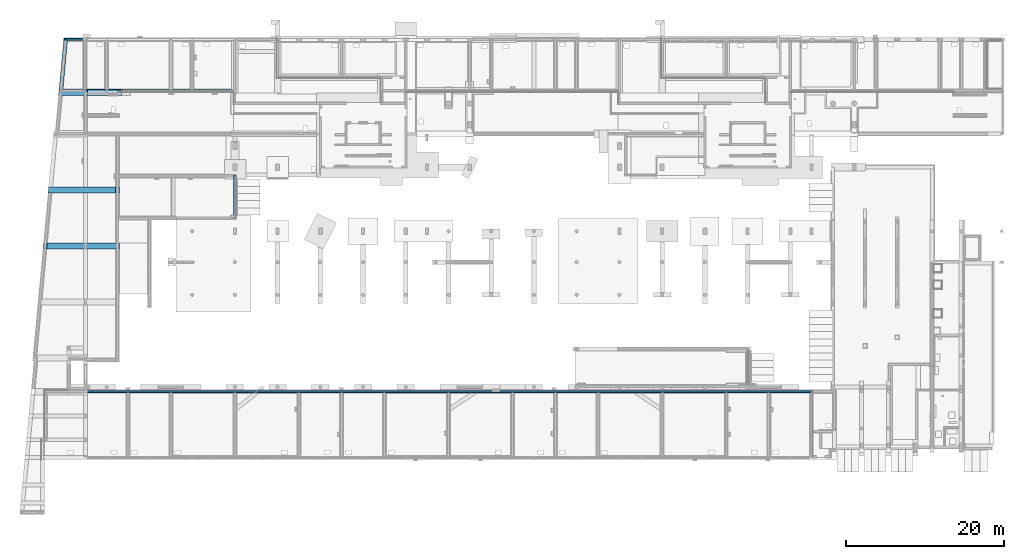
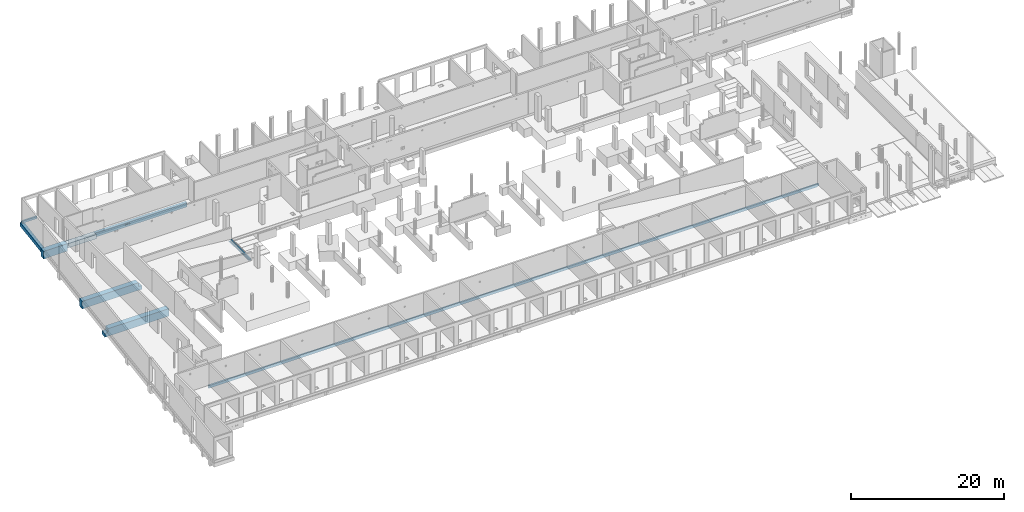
# One storey, part 56 of 60: 9 footings.
"""IFC2X3 building model written with IfcOpenShell, lengths in millimetres."""

from ifc_helpers import new_model, entity, si_unit, converted_unit, derived_unit, direction, frame, origin, place, context, subcontext, project, spatial, faceted_brep, material, element, save


model = new_model("IFC2X3")

# Units and contexts
model_context = context("Model", 3, precision=0.01, world=origin(), true_north=direction((6.12303176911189e-17, 1.0)))
body_context = subcontext(model_context, "Body", "Model", "MODEL_VIEW")
ifc_project = project(units=[si_unit("LENGTHUNIT", "METRE", prefix="MILLI"), si_unit("AREAUNIT", "SQUARE_METRE"), si_unit("VOLUMEUNIT", "CUBIC_METRE"), converted_unit("PLANEANGLEUNIT", "DEGREE", entity("IfcRatioMeasure", 0.0174532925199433), si_unit("PLANEANGLEUNIT", "RADIAN"), dimensions=[0, 0, 0, 0, 0, 0, 0]), si_unit("MASSUNIT", "GRAM", prefix="KILO"), derived_unit("MASSDENSITYUNIT", [(si_unit("MASSUNIT", "GRAM", prefix="KILO"), 1), (si_unit("LENGTHUNIT", "METRE"), -3)]), si_unit("TIMEUNIT", "SECOND"), si_unit("FREQUENCYUNIT", "HERTZ"), si_unit("THERMODYNAMICTEMPERATUREUNIT", "DEGREE_CELSIUS"), derived_unit("THERMALTRANSMITTANCEUNIT", [(si_unit("MASSUNIT", "GRAM", prefix="KILO"), 1), (si_unit("THERMODYNAMICTEMPERATUREUNIT", "KELVIN"), -1), (si_unit("TIMEUNIT", "SECOND"), -3)]), derived_unit("VOLUMETRICFLOWRATEUNIT", [(si_unit("LENGTHUNIT", "METRE"), 3), (si_unit("TIMEUNIT", "SECOND"), -1)]), si_unit("ELECTRICCURRENTUNIT", "AMPERE"), si_unit("ELECTRICVOLTAGEUNIT", "VOLT"), si_unit("POWERUNIT", "WATT"), si_unit("FORCEUNIT", "NEWTON", prefix="KILO"), si_unit("ILLUMINANCEUNIT", "LUX"), si_unit("LUMINOUSFLUXUNIT", "LUMEN"), si_unit("LUMINOUSINTENSITYUNIT", "CANDELA"), derived_unit("USERDEFINED", [(si_unit("MASSUNIT", "GRAM", prefix="KILO"), -1), (si_unit("LENGTHUNIT", "METRE"), -2), (si_unit("TIMEUNIT", "SECOND"), 3), (si_unit("LUMINOUSFLUXUNIT", "LUMEN"), 1)]), derived_unit("LINEARVELOCITYUNIT", [(si_unit("LENGTHUNIT", "METRE"), 1), (si_unit("TIMEUNIT", "SECOND"), -1)]), si_unit("PRESSUREUNIT", "PASCAL"), derived_unit("USERDEFINED", [(si_unit("LENGTHUNIT", "METRE"), -2), (si_unit("MASSUNIT", "GRAM", prefix="KILO"), 1), (si_unit("TIMEUNIT", "SECOND"), -2)])], contexts=[model_context])

# Site, building, storey
site_placement = place(None, origin())
site = spatial("IfcSite", under=ifc_project, at=site_placement, Name="Default", CompositionType="ELEMENT")
building_placement = place(site_placement, origin())
building = spatial("IfcBuilding", under=site, at=building_placement, Name="niet gebruiken", CompositionType="ELEMENT")
storey_placement = place(building_placement, origin())
storey = spatial("IfcBuildingStorey", under=building, at=storey_placement, Name="00 begane grond", CompositionType="ELEMENT", Elevation=0.0)

# Footings
ifc_material = material(Name="NLRS_f2_beton ihwg")
footing_1_placement = place(storey_placement, frame((4709.2590380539, 46071.0, -1602.0)))
element("IfcFooting", 1, at=footing_1_placement, inside=storey, material=ifc_material, Name="NLRS_16.12_SF_WPB_funderingsbalk ihwg recht_gen:800x1200", ObjectType="NLRS_16.12_SF_WPB_funderingsbalk ihwg recht_gen:800x1200", PredefinedType="FOOTING_BEAM", context=body_context, shape_type="Brep", body=[
    faceted_brep([(3640.74096194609, 0.0, 1200.0), (3640.74096194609, 0.0, 600.0), (3640.74096194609, 0.0, 0.0), (3640.74096194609, 800.0, 0.0), (3640.74096194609, 800.0, 500.0), (3640.74096194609, 800.0, 1110.0), (3640.74096194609, 695.0, 1110.0), (3640.74096194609, 695.0, 1200.0), (3640.74096194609, 675.0, 1200.0), (74.1560345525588, 800.0, 0.0), (74.1560345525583, 800.0, 600.0), (74.1560345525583, 800.0, 1200.0), (576.29953272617, 800.0, 1200.0), (3095.74096194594, 800.0, 1200.0), (3470.74096194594, 800.0, 1200.0), (3490.7409619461, 800.0, 1200.0), (3490.7409619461, 800.0, 1110.0), (3595.74096194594, 800.0, 1110.0), (0.0, 0.0, 0.0), (3140.7409619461, 0.0, 1200.0), (502.143498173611, 0.0, 1200.0), (0.0, 0.0, 1200.0), (0.0, 0.0, 600.0), (3490.7409619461, 695.0, 1200.0), (3490.7409619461, 695.0, 1110.0)], [[[0, 1, 2, 3, 4, 5, 6, 7, 8]], [[3, 9, 10, 11, 12, 13, 14, 15, 16, 17, 5, 4]], [[3, 2, 18, 9]], [[2, 1, 0, 19, 20, 21, 22, 18]], [[21, 20, 19, 0, 8, 7, 23, 15, 14, 13, 12, 11]], [[16, 24, 6, 5, 17]], [[6, 24, 23, 7]], [[24, 16, 15, 23]], [[11, 10, 9, 18, 22, 21]]]),
])
footing_2_placement = place(storey_placement, frame((2730.42402888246, 26623.5, -1602.0)))
element("IfcFooting", 2, at=footing_2_placement, inside=storey, material=ifc_material, Name="NLRS_16.12_SF_WPB_funderingsbalk ihwg recht_gen:800x1200", ObjectType="NLRS_16.12_SF_WPB_funderingsbalk ihwg recht_gen:800x1200", PredefinedType="FOOTING_BEAM", context=body_context, shape_type="Brep", body=[
    faceted_brep([(9669.57597111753, 800.0, 1200.0), (9669.57597111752, 0.0, 1200.0), (9669.57597111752, 0.0, 600.0), (9669.57597111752, 0.0, 0.0), (9669.57597111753, 800.0, 0.0), (9669.57597111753, 800.0, 600.0), (74.4283302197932, 800.0, 0.0), (74.4283302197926, 800.0, 600.0), (576.587564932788, 800.0, 600.0), (576.587564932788, 800.0, 1200.0), (5119.57597111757, 800.0, 1200.0), (5619.57597111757, 800.0, 1200.0), (9169.57597111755, 800.0, 1200.0), (0.0, 0.0, 0.0), (9169.57597111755, 0.0, 1200.0), (5619.57597111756, 0.0, 1200.0), (5119.57597111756, 0.0, 1200.0), (502.159234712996, 0.0, 1200.0), (502.159234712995, 0.0, 600.0), (0.0, 0.0, 600.0)], [[[0, 1, 2, 3, 4, 5]], [[0, 5, 4, 6, 7, 8, 9, 10, 11, 12]], [[4, 3, 13, 6]], [[3, 2, 1, 14, 15, 16, 17, 18, 19, 13]], [[1, 0, 12, 11, 10, 9, 17, 16, 15, 14]], [[8, 18, 17, 9]], [[18, 8, 7, 19]], [[6, 13, 19, 7]]]),
])
footing_3_placement = place(storey_placement, frame((5489.22191752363, 53006.0, -492.0)))
element("IfcFooting", 3, at=footing_3_placement, inside=storey, material=ifc_material, Name="NLRS_16.12_SF_WPB_opstort ihwg recht_gen:250x422", ObjectType="NLRS_16.12_SF_WPB_opstort ihwg recht_gen:250x422", PredefinedType="FOOTING_BEAM", context=body_context, shape_type="Brep", body=[
    faceted_brep([(0.0, 250.0, 0.0), (0.0, 0.0, 0.0), (0.0, 0.0, 90.0), (0.0, 0.0, 362.0), (0.0, 250.0, 362.0), (0.0, 250.0, 90.0), (220.778082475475, 250.0, 362.0), (220.778082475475, 250.0, 422.0), (2280.77808247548, 250.0, 422.0), (2280.77808247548, 250.0, 90.0), (11.5868803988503, 250.0, 90.0), (11.5868803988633, 250.0, 0.0), (239.48486868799, 0.0, 0.0), (220.778082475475, 0.0, 362.0), (239.484868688, 0.0, 90.0), (2280.77808247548, 0.0, 90.0), (2280.77808247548, 0.0, 422.0), (239.484868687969, 0.0, 422.0), (220.778082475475, 0.0, 422.0)], [[[0, 1, 2, 3, 4, 5]], [[4, 6, 7, 8, 9, 10, 11, 0, 5]], [[1, 0, 11, 12]], [[13, 3, 2, 1, 12, 14, 15, 16, 17, 18]], [[7, 18, 17, 16, 8]], [[6, 4, 3, 13]], [[7, 6, 13, 18]], [[14, 10, 9, 15]], [[10, 14, 12, 11]], [[9, 8, 16, 15]]]),
])
footing_4_placement = place(storey_placement, frame((4783.41507260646, 46871.0, -1002.0)))
element("IfcFooting", 4, at=footing_4_placement, inside=storey, material=ifc_material, Name="NLRS_16.12_SF_WPB_funderingsbalk ihwg recht_gen:500x600", ObjectType="NLRS_16.12_SF_WPB_funderingsbalk ihwg recht_gen:500x600", PredefinedType="FOOTING_BEAM", context=body_context, shape_type="Brep", body=[
    faceted_brep([(1059.24070774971, 6010.0, 600.0), (502.143498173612, 0.0, 600.0), (502.143498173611, 0.0, 0.0), (1059.24070774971, 6010.0, 0.0), (0.0, 0.0, 0.0), (603.444731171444, 6510.0, 0.0), (0.0, 0.0, 600.0), (603.444731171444, 6510.0, 600.0), (945.291713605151, 6135.0, 600.0), (705.806844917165, 6135.0, 600.0), (705.806844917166, 6260.0, 600.0), (705.806844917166, 6385.0, 600.0), (717.393725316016, 6385.0, 600.0), (717.393725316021, 6385.0, 510.0), (945.291713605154, 6135.0, 510.0), (705.806844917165, 6135.0, 510.0), (705.806844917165, 6385.0, 510.0)], [[[0, 1, 2, 3]], [[3, 2, 4, 5]], [[5, 4, 6, 7]], [[1, 0, 8, 9, 10, 11, 12, 7, 6]], [[2, 1, 6, 4]], [[0, 3, 5, 7, 12, 13, 14, 8]], [[15, 16, 11, 10, 9]], [[11, 16, 13, 12]], [[16, 15, 14, 13]], [[15, 9, 8, 14]]]),
])
footing_5_placement = place(storey_placement, frame((26850.0, 30551.0, -492.0)))
element("IfcFooting", 5, at=footing_5_placement, inside=storey, material=ifc_material, Name="NLRS_16.12_SF_WPB_opstort ihwg recht_gen:300x550", ObjectType="NLRS_16.12_SF_WPB_opstort ihwg recht_gen:300x550", PredefinedType="FOOTING_BEAM", context=body_context, shape_type="Brep", body=[
    faceted_brep([(0.0, 0.0, 322.0), (0.0, 125.0, 322.0), (0.0, 125.0, 292.0), (0.0, 0.0, 292.0), (0.0, 4950.0, 0.0), (300.0, 4950.0, 0.0), (300.0, 4949.0, 0.0), (0.0, 4949.0, 0.0), (300.0, 125.0, 492.0), (300.0, 125.0, 322.0), (300.0, 0.0, 322.0), (300.0, 0.0, 292.0), (300.0, 330.0, 292.0), (300.0, 330.0, 90.0), (300.0, 4949.0, 90.0), (300.0, 4950.0, 90.0), (300.0, 5305.0, 90.0), (300.0, 5455.0, 90.0), (300.0, 5455.0, 120.0), (300.0, 5305.0, 120.0), (300.0, 5205.0, 120.0), (300.0, 5205.0, 492.0), (150.0, 5205.0, 492.0), (150.0, 125.0, 492.0), (150.0, 330.0, 240.78363277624), (150.0, 5205.0, 240.783632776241), (30.0, 5205.0, 252.635484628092), (0.0, 5205.0, 255.598447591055), (0.0, 330.0, 255.598447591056), (30.0, 330.0, 252.635484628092), (150.0, 330.0, 292.0), (150.0, 125.0, 292.0), (150.0, 125.0, 322.0), (0.0, 4949.0, 90.0), (0.0, 330.0, 90.0), (0.0, 5455.0, 120.0), (0.0, 5455.0, 90.0), (0.0, 5205.0, 120.0), (0.0, 4950.0, 90.0)], [[[0, 1, 2, 3]], [[4, 5, 6, 7]], [[8, 9, 10, 11, 12, 13, 14, 6, 5, 15, 16, 17, 18, 19, 20, 21]], [[8, 21, 22, 23]], [[24, 25, 26, 27, 28, 29]], [[25, 24, 30, 31, 32, 23, 22]], [[14, 33, 7, 6]], [[33, 14, 13, 34]], [[9, 8, 23, 32]], [[10, 0, 3, 11]], [[12, 11, 3, 2, 31, 30]], [[24, 29, 28, 34, 13, 12, 30]], [[35, 18, 17, 36]], [[21, 20, 37, 27, 26, 25, 22]], [[36, 17, 16, 15, 38]], [[15, 5, 4, 38]], [[37, 20, 19, 18, 35]], [[1, 0, 10, 9, 32]], [[28, 27, 37, 35, 36, 38, 4, 7, 33, 34]], [[2, 1, 32, 31]]]),
])
footing_6_placement = place(storey_placement, frame((3389.23104559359, 33704.75, -1602.0)))
element("IfcFooting", 6, at=footing_6_placement, inside=storey, material=ifc_material, Name="NLRS_16.12_SF_WPB_funderingsbalk ihwg recht_gen:800x1200", ObjectType="NLRS_16.12_SF_WPB_funderingsbalk ihwg recht_gen:800x1200", PredefinedType="FOOTING_BEAM", context=body_context, shape_type="Brep", body=[
    faceted_brep([(9010.7689544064, 0.0, 0.0), (9010.7689544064, 800.0, 0.0), (9010.7689544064, 800.0, 600.0), (9010.7689544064, 0.0, 600.0), (74.4283302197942, 800.0, 0.0), (74.4283302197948, 800.0, 600.0), (74.4283302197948, 800.0, 1200.0), (576.58756493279, 800.0, 1200.0), (4460.76895440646, 800.0, 1200.0), (4960.76895440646, 800.0, 1200.0), (8510.76895440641, 800.0, 1200.0), (8510.76895440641, 800.0, 600.0), (0.0, 0.0, 0.0), (8510.76895440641, 0.0, 600.0), (8510.76895440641, 0.0, 1200.0), (4960.76895440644, 0.0, 1200.0), (4460.76895440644, 0.0, 1200.0), (502.159234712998, 0.0, 1200.0), (0.0, 0.0, 1200.0), (0.0, 0.0, 600.0)], [[[0, 1, 2, 3]], [[1, 4, 5, 6, 7, 8, 9, 10, 11, 2]], [[1, 0, 12, 4]], [[12, 0, 3, 13, 14, 15, 16, 17, 18, 19]], [[6, 18, 17, 16, 15, 14, 10, 9, 8, 7]], [[11, 13, 3, 2]], [[13, 11, 10, 14]], [[6, 5, 4, 12, 19, 18]]]),
])
footing_7_placement = place(storey_placement, frame((8350.0, 46021.0, -1102.0)))
element("IfcFooting", 7, at=footing_7_placement, inside=storey, material=ifc_material, Name="NLRS_16.12_SF_WPB_funderingsbalk ihwg enkele sponning_gen:850x700/125x90", ObjectType="NLRS_16.12_SF_WPB_funderingsbalk ihwg enkele sponning_gen:850x700/125x90", PredefinedType="FOOTING_BEAM", context=body_context, shape_type="Brep", body=[
    faceted_brep([(0.0, 0.0, 0.0), (0.0, 0.0, 700.0), (0.0, 50.0, 700.0), (0.0, 725.0, 700.0), (0.0, 725.0, 610.0), (0.0, 745.0, 610.0), (0.0, 850.0, 610.0), (0.0, 850.0, 0.0), (2200.0, 850.0, 610.0), (2305.0, 850.0, 610.0), (2325.0, 850.0, 610.0), (2325.0, 850.0, 552.0), (2575.0, 850.0, 552.0), (2575.0, 850.0, 610.0), (2595.0, 850.0, 610.0), (2700.0, 850.0, 610.0), (4300.0, 850.0, 610.0), (4300.0, 850.0, 0.0), (2325.0, 725.0, 700.0), (2325.0, 725.0, 610.0), (4300.0, 725.0, 700.0), (4300.0, 350.0, 700.0), (4300.0, 0.0, 700.0), (4300.0, 0.0, 0.0), (4300.0, 350.0, 0.0), (4300.0, 745.0, 610.0), (4300.0, 725.0, 610.0), (2575.0, 725.0, 700.0), (2575.0, 600.0, 700.0), (2325.0, 600.0, 700.0), (2325.0, 600.0, 610.0), (2325.0, 600.0, 552.0), (2575.0, 600.0, 552.0), (2575.0, 600.0, 610.0), (2575.0, 725.0, 610.0)], [[[0, 1, 2, 3, 4, 5, 6, 7]], [[7, 6, 8, 9, 10, 11, 12, 13, 14, 15, 16, 17]], [[4, 3, 18, 19]], [[20, 21, 22, 23, 24, 17, 16, 25, 26]], [[3, 2, 1, 22, 21, 20, 27, 28, 29, 18]], [[4, 19, 10, 9, 8, 6, 5]], [[0, 7, 17, 24, 23]], [[1, 0, 23, 22]], [[29, 30, 31, 11, 10, 19, 18]], [[31, 32, 12, 11]], [[12, 32, 33, 28, 27, 34, 13]], [[32, 31, 30, 29, 28, 33]], [[20, 26, 34, 27]], [[34, 26, 25, 16, 15, 14, 13]]]),
])
footing_8_placement = place(storey_placement, frame((12650.0, 46371.0, -1102.0)))
element("IfcFooting", 8, at=footing_8_placement, inside=storey, material=ifc_material, Name="NLRS_16.12_SF_WPB_funderingsbalk ihwg enkele sponning_gen:500x700/125x90", ObjectType="NLRS_16.12_SF_WPB_funderingsbalk ihwg enkele sponning_gen:500x700/125x90", PredefinedType="FOOTING_BEAM", context=body_context, shape_type="Brep", body=[
    faceted_brep([(0.0, 375.0, 610.0), (0.0, 395.0, 610.0), (0.0, 500.0, 610.0), (0.0, 500.0, 0.0), (0.0, 0.0, 0.0), (0.0, 0.0, 700.0), (0.0, 375.0, 700.0), (4600.0, 500.0, 487.0), (6000.0, 500.0, 610.0), (4574.11809548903, 500.0, 483.592582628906), (4900.0, 500.0, 487.0), (4874.11809548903, 500.0, 483.592582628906), (4625.88190450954, 500.0, 483.592582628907), (4550.0, 500.0, 473.602540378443), (4529.28932188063, 500.0, 457.710678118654), (4513.39745962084, 500.0, 437.0), (4503.40741737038, 500.0, 412.881904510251), (4500.0, 500.0, 387.0), (4503.40741737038, 500.0, 361.118095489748), (4513.39745962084, 500.0, 337.0), (4529.28932188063, 500.0, 316.289321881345), (4550.0, 500.0, 300.397459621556), (4574.11809548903, 500.0, 290.407417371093), (4600.0, 500.0, 287.0), (4900.0, 500.0, 287.0), (4874.11809548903, 500.0, 290.407417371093), (4625.88190450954, 500.0, 290.407417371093), (4850.0, 500.0, 300.397459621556), (4650.0, 500.0, 300.397459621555), (4829.28932188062, 500.0, 316.289321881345), (4670.71067811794, 500.0, 316.289321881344), (4813.39745962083, 500.0, 337.0), (4686.60254037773, 500.0, 337.0), (4803.40741737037, 500.0, 361.118095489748), (4696.59258262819, 500.0, 361.118095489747), (4800.0, 500.0, 387.0), (4700.0, 500.0, 387.0), (4803.40741737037, 500.0, 412.881904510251), (4696.59258262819, 500.0, 412.881904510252), (4813.39745962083, 500.0, 437.0), (4686.60254037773, 500.0, 437.0), (4829.28932188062, 500.0, 457.710678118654), (4670.71067811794, 500.0, 457.710678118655), (4850.0, 500.0, 473.602540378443), (4650.0, 500.0, 473.602540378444), (5200.0, 500.0, 287.0), (5174.11809548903, 500.0, 290.407417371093), (4925.88190450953, 500.0, 290.407417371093), (5150.0, 500.0, 300.397459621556), (4950.0, 500.0, 300.397459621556), (5129.28932188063, 500.0, 316.289321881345), (4970.71067811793, 500.0, 316.289321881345), (5113.39745962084, 500.0, 337.0), (4986.60254037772, 500.0, 337.0), (5103.40741737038, 500.0, 361.118095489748), (4996.59258262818, 500.0, 361.118095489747), (5100.0, 500.0, 387.0), (5000.0, 500.0, 387.0), (5103.40741737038, 500.0, 412.881904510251), (4996.59258262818, 500.0, 412.881904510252), (5113.39745962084, 500.0, 437.0), (4986.60254037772, 500.0, 437.0), (5129.28932188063, 500.0, 457.710678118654), (4970.71067811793, 500.0, 457.710678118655), (5150.0, 500.0, 473.602540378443), (4950.0, 500.0, 473.602540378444), (5174.11809548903, 500.0, 483.592582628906), (4925.88190450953, 500.0, 483.592582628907), (5200.0, 500.0, 487.0), (13925.0, 500.0, 0.0), (5225.88190450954, 500.0, 290.407417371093), (8805.0, 500.0, 610.0), (8700.0, 500.0, 610.0), (6500.0, 500.0, 610.0), (5250.0, 500.0, 300.397459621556), (6395.0, 500.0, 610.0), (6105.0, 500.0, 610.0), (5270.71067811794, 500.0, 316.289321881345), (5286.60254037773, 500.0, 337.0), (5296.59258262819, 500.0, 361.118095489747), (5300.0, 500.0, 387.0), (5296.59258262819, 500.0, 412.881904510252), (5286.60254037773, 500.0, 437.0), (5270.71067811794, 500.0, 457.710678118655), (5250.0, 500.0, 473.602540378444), (5225.88190450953, 500.0, 483.592582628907), (9095.0, 500.0, 610.0), (9200.0, 500.0, 610.0), (13925.0, 500.0, 610.0), (6375.0, 375.0, 610.0), (6125.0, 375.0, 610.0), (13925.0, 375.0, 700.0), (13925.0, 375.0, 610.0), (9075.0, 375.0, 610.0), (8825.0, 375.0, 610.0), (13925.0, 395.0, 610.0), (13925.0, 125.0, 700.0), (13925.0, 125.0, 610.0), (13925.0, 10.0, 610.0), (13925.0, 10.0, 0.0), (1180.0, 0.0, 700.0), (6014.46371370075, 0.0, 700.0), (6614.46371370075, 0.0, 700.0), (11506.5492640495, 0.0, 700.0), (12106.5492640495, 0.0, 700.0), (13825.0, 0.0, 700.0), (13825.0, 125.0, 700.0), (13825.0, 125.0, 610.0), (13825.0, 10.0, 610.0), (13825.0, 10.0, 0.0), (13825.0, 0.0, 0.0), (12106.5492640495, 0.0, 0.0), (11506.5492640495, 0.0, 0.0), (6614.46371370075, 0.0, 0.0), (6014.46371370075, 0.0, 0.0), (1180.0, 0.0, 0.0), (4529.28932188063, 0.0, 316.289321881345), (4550.0, 0.0, 300.397459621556), (4513.39745962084, 0.0, 337.0), (4503.40741737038, 0.0, 361.118095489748), (4500.0, 0.0, 387.0), (4503.40741737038, 0.0, 412.881904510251), (4513.39745962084, 0.0, 437.0), (4529.28932188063, 0.0, 457.710678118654), (4550.0, 0.0, 473.602540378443), (4574.11809548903, 0.0, 483.592582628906), (4600.0, 0.0, 487.0), (4900.0, 0.0, 487.0), (4874.11809548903, 0.0, 483.592582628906), (4625.88190450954, 0.0, 483.592582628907), (4850.0, 0.0, 473.602540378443), (4650.0, 0.0, 473.602540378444), (4670.71067811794, 0.0, 457.710678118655), (4829.28932188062, 0.0, 457.710678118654), (4686.60254037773, 0.0, 437.0), (4813.39745962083, 0.0, 437.0), (4696.59258262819, 0.0, 412.881904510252), (4803.40741737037, 0.0, 412.881904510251), (4700.0, 0.0, 387.0), (4800.0, 0.0, 387.0), (4696.59258262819, 0.0, 361.118095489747), (4803.40741737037, 0.0, 361.118095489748), (4686.60254037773, 0.0, 337.0), (4813.39745962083, 0.0, 337.0), (4670.71067811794, 0.0, 316.289321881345), (4829.28932188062, 0.0, 316.289321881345), (4650.0, 0.0, 300.397459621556), (4850.0, 0.0, 300.397459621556), (4625.88190450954, 0.0, 290.407417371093), (4874.11809548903, 0.0, 290.407417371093), (4600.0, 0.0, 287.0), (4574.11809548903, 0.0, 290.407417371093), (4900.0, 0.0, 287.0), (5200.0, 0.0, 287.0), (5225.88190450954, 0.0, 290.407417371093), (5250.0, 0.0, 300.397459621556), (5270.71067811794, 0.0, 316.289321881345), (5286.60254037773, 0.0, 337.0), (5296.59258262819, 0.0, 361.118095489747), (5300.0, 0.0, 387.0), (5200.0, 0.0, 487.0), (5225.88190450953, 0.0, 483.592582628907), (5250.0, 0.0, 473.602540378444), (5270.71067811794, 0.0, 457.710678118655), (5286.60254037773, 0.0, 437.0), (5296.59258262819, 0.0, 412.881904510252), (5174.11809548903, 0.0, 290.407417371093), (4925.88190450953, 0.0, 290.407417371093), (5150.0, 0.0, 300.397459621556), (4950.0, 0.0, 300.397459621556), (5129.28932188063, 0.0, 316.289321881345), (4970.71067811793, 0.0, 316.289321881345), (5113.39745962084, 0.0, 337.0), (4986.60254037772, 0.0, 337.0), (5103.40741737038, 0.0, 361.118095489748), (4996.59258262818, 0.0, 361.118095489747), (5100.0, 0.0, 387.0), (5000.0, 0.0, 387.0), (5103.40741737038, 0.0, 412.881904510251), (4996.59258262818, 0.0, 412.881904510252), (5113.39745962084, 0.0, 437.0), (4986.60254037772, 0.0, 437.0), (5129.28932188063, 0.0, 457.710678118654), (4970.71067811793, 0.0, 457.710678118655), (5150.0, 0.0, 473.602540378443), (4950.0, 0.0, 473.602540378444), (4925.88190450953, 0.0, 483.592582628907), (5174.11809548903, 0.0, 483.592582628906)], [[[0, 1, 2, 3, 4, 5, 6]], [[7, 2, 8]], [[9, 2, 7]], [[10, 7, 8]], [[11, 7, 10]], [[11, 12, 7]], [[2, 9, 13]], [[13, 14, 2]], [[15, 2, 14]], [[2, 15, 16]], [[16, 17, 2]], [[3, 2, 17]], [[3, 17, 18]], [[19, 3, 18]], [[3, 19, 20]], [[3, 20, 21]], [[21, 22, 3]], [[23, 3, 22]], [[24, 3, 23]], [[24, 23, 25]], [[25, 23, 26]], [[26, 27, 25]], [[28, 27, 26]], [[27, 28, 29]], [[30, 29, 28]], [[31, 29, 30]], [[30, 32, 31]], [[31, 32, 33]], [[34, 33, 32]], [[35, 33, 34]], [[34, 36, 35]], [[36, 37, 35]], [[38, 37, 36]], [[37, 38, 39]], [[39, 38, 40]], [[40, 41, 39]], [[41, 40, 42]], [[42, 43, 41]], [[44, 43, 42]], [[44, 11, 43]], [[11, 44, 12]], [[24, 45, 3]], [[45, 24, 46]], [[24, 47, 46]], [[46, 47, 48]], [[47, 49, 48]], [[50, 48, 49]], [[49, 51, 50]], [[52, 50, 51]], [[51, 53, 52]], [[52, 53, 54]], [[54, 53, 55]], [[56, 54, 55]], [[55, 57, 56]], [[56, 57, 58]], [[59, 58, 57]], [[58, 59, 60]], [[61, 60, 59]], [[60, 61, 62]], [[62, 61, 63]], [[63, 64, 62]], [[64, 63, 65]], [[64, 65, 66]], [[66, 65, 67]], [[66, 67, 10]], [[8, 68, 10]], [[68, 66, 10]], [[45, 69, 3]], [[70, 69, 45]], [[71, 69, 70]], [[71, 70, 72]], [[73, 72, 70]], [[74, 73, 70]], [[75, 73, 74]], [[74, 76, 75]], [[74, 77, 76]], [[76, 77, 8]], [[78, 8, 77]], [[79, 8, 78]], [[80, 8, 79]], [[81, 8, 80]], [[81, 82, 8]], [[8, 82, 83]], [[8, 83, 84]], [[8, 84, 85]], [[68, 8, 85]], [[69, 71, 86]], [[86, 87, 69]], [[87, 88, 69]], [[89, 90, 0, 6, 91, 92, 93, 94]], [[69, 88, 95, 92, 91, 96, 97, 98, 99]], [[6, 5, 100, 101, 102, 103, 104, 105, 106, 96, 91]], [[0, 90, 89, 94, 93, 92, 95, 88, 87, 86, 71, 72, 73, 75, 76, 8, 2, 1]], [[97, 107, 108, 98]], [[69, 99, 109, 110, 111, 112, 113, 114, 115, 4, 3]], [[116, 115, 117]], [[118, 115, 116]], [[115, 118, 119]], [[120, 115, 119]], [[120, 100, 115]], [[121, 100, 120]], [[100, 121, 122]], [[100, 122, 123]], [[100, 123, 124]], [[125, 100, 124]], [[126, 100, 125]], [[101, 100, 126]], [[101, 126, 127]], [[126, 128, 127]], [[126, 129, 128]], [[130, 128, 129]], [[129, 131, 130]], [[130, 131, 132]], [[133, 130, 132]], [[132, 134, 133]], [[135, 133, 134]], [[135, 134, 136]], [[135, 136, 137]], [[136, 138, 137]], [[137, 138, 139]], [[138, 140, 139]], [[139, 140, 141]], [[140, 142, 141]], [[143, 141, 142]], [[143, 142, 144]], [[144, 145, 143]], [[144, 146, 145]], [[147, 145, 146]], [[148, 147, 146]], [[149, 147, 148]], [[148, 150, 149]], [[115, 150, 151]], [[150, 115, 114]], [[152, 149, 150]], [[152, 150, 114]], [[152, 114, 153]], [[114, 154, 153]], [[154, 114, 155]], [[114, 156, 155]], [[114, 157, 156]], [[114, 158, 157]], [[114, 159, 158]], [[159, 114, 101]], [[101, 114, 102]], [[114, 113, 102]], [[102, 113, 103]], [[113, 112, 103]], [[103, 112, 111]], [[111, 104, 103]], [[104, 111, 110]], [[105, 104, 110]], [[101, 127, 160]], [[160, 161, 101]], [[101, 161, 162]], [[101, 162, 163]], [[101, 163, 164]], [[101, 164, 165]], [[101, 165, 159]], [[166, 152, 153]], [[166, 167, 152]], [[168, 167, 166]], [[168, 169, 167]], [[170, 169, 168]], [[169, 170, 171]], [[172, 171, 170]], [[173, 171, 172]], [[172, 174, 173]], [[175, 173, 174]], [[174, 176, 175]], [[176, 177, 175]], [[178, 177, 176]], [[178, 179, 177]], [[180, 179, 178]], [[179, 180, 181]], [[181, 180, 182]], [[183, 181, 182]], [[183, 182, 184]], [[184, 185, 183]], [[184, 186, 185]], [[187, 186, 184]], [[187, 160, 127]], [[186, 187, 127]], [[115, 151, 117]], [[100, 4, 115]], [[100, 5, 4]], [[110, 109, 108, 107, 106, 105]], [[99, 98, 108, 109]], [[106, 107, 97, 96]], [[19, 18, 119, 118]], [[19, 118, 116, 20]], [[22, 21, 117, 151]], [[116, 117, 21, 20]], [[23, 22, 151, 150]], [[17, 120, 119, 18]], [[28, 26, 148, 146]], [[28, 146, 144, 30]], [[34, 32, 142, 140]], [[144, 142, 32, 30]], [[36, 34, 140, 138]], [[150, 148, 26, 23]], [[42, 40, 134, 132]], [[12, 44, 131, 129]], [[132, 131, 44, 42]], [[12, 129, 126, 7]], [[136, 38, 36, 138]], [[136, 134, 40, 38]], [[13, 9, 125, 124]], [[13, 124, 123, 14]], [[16, 15, 122, 121]], [[123, 122, 15, 14]], [[17, 16, 121, 120]], [[126, 125, 9, 7]], [[31, 33, 141, 143]], [[31, 143, 145, 29]], [[25, 27, 147, 149]], [[145, 147, 27, 29]], [[24, 25, 149, 152]], [[35, 139, 141, 33]], [[49, 47, 167, 169]], [[49, 169, 171, 51]], [[55, 53, 173, 175]], [[171, 173, 53, 51]], [[57, 55, 175, 177]], [[152, 167, 47, 24]], [[63, 61, 181, 183]], [[67, 65, 185, 186]], [[183, 185, 65, 63]], [[67, 186, 127, 10]], [[179, 59, 57, 177]], [[179, 181, 61, 59]], [[43, 11, 128, 130]], [[43, 130, 133, 41]], [[37, 39, 135, 137]], [[133, 135, 39, 41]], [[35, 37, 137, 139]], [[127, 128, 11, 10]], [[52, 54, 174, 172]], [[52, 172, 170, 50]], [[46, 48, 168, 166]], [[170, 168, 48, 50]], [[45, 46, 166, 153]], [[56, 176, 174, 54]], [[74, 70, 154, 155]], [[74, 155, 156, 77]], [[79, 78, 157, 158]], [[156, 157, 78, 77]], [[80, 79, 158, 159]], [[153, 154, 70, 45]], [[83, 82, 164, 163]], [[85, 84, 162, 161]], [[163, 162, 84, 83]], [[85, 161, 160, 68]], [[165, 81, 80, 159]], [[165, 164, 82, 81]], [[64, 66, 187, 184]], [[64, 184, 182, 62]], [[58, 60, 180, 178]], [[182, 180, 60, 62]], [[56, 58, 178, 176]], [[160, 187, 66, 68]]]),
])
footing_9_placement = place(storey_placement, frame((7970.0, 8496.0, -582.0)))
element("IfcFooting", 9, at=footing_9_placement, inside=storey, material=ifc_material, Name="NLRS_16.12_SF_WPB_opstort ihwg recht_gen:250x422", ObjectType="NLRS_16.12_SF_WPB_opstort ihwg recht_gen:250x422", PredefinedType="FOOTING_BEAM", context=body_context, shape_type="Brep", body=[
    faceted_brep([(92055.0, 250.0, 422.0), (92055.0, 0.0, 422.0), (92055.0, 0.0, 90.0), (92055.0, 250.0, 90.0), (0.0, 250.0, 422.0), (5.0, 250.0, 422.0), (92055.0, 250.0, 0.0), (380.0, 250.0, 0.0), (0.0, 250.0, 0.0), (0.0, 250.0, 90.0), (91805.0, 0.0, 0.0), (380.0, 0.0, 0.0), (0.0, 0.0, 0.0), (5655.0, 0.0, 422.0), (5405.0, 0.0, 422.0), (255.0, 0.0, 422.0), (5.0, 0.0, 422.0), (0.0, 0.0, 422.0), (0.0, 0.0, 90.0), (91805.0, 0.0, 90.0)], [[[0, 1, 2, 3]], [[4, 5, 0, 3, 6, 7, 8, 9]], [[8, 7, 6, 10, 11, 12]], [[1, 13, 14, 15, 16, 17, 18, 12, 11, 10, 19, 2]], [[1, 0, 5, 4, 17, 16, 15, 14, 13]], [[4, 9, 8, 12, 18, 17]], [[19, 3, 2]], [[3, 19, 10, 6]]]),
])

save(model, "model.ifc")
